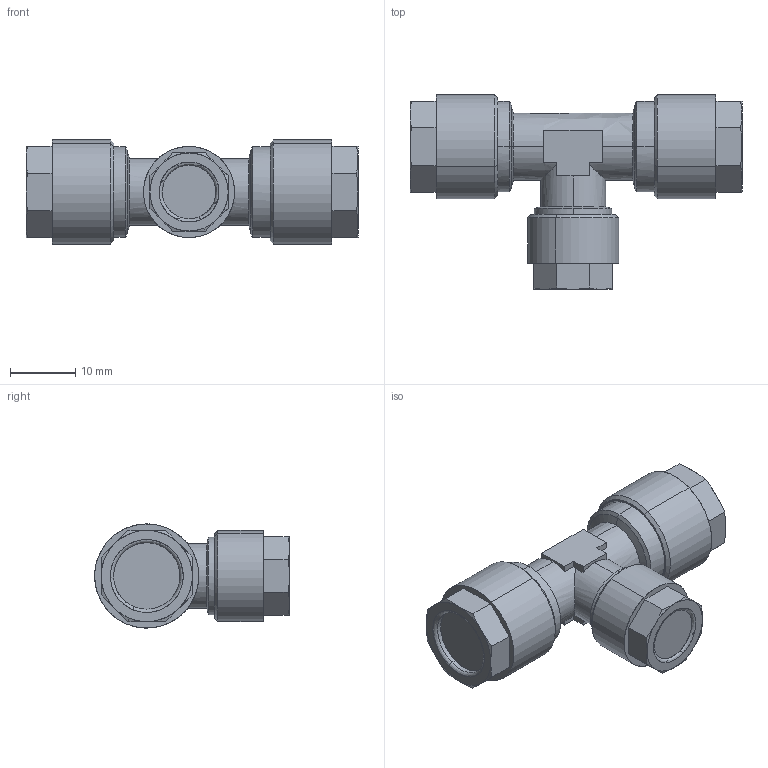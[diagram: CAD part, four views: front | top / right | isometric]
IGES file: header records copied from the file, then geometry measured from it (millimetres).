
Start section: SolidWorks IGES file using analytic representation for surfaces
Global section: file name: K:\Disegni Esecutivi\Serie 1000\Complessivi Serie 1000\1230\1230_iges\0123000007A.IGS; native system: SolidWorks 2008; preprocessor: SolidWorks 2008; author: cad05; date: 090210.174822; units: millimetre
Bounding box: 51 x 29.9 x 16 mm (x, y, z)
Surface area: 3736.3 mm2 (no closed solid volume)
Topology: 0 solids, 0 shells, 130 faces, 1331 edges, 1331 vertices
Faces by surface type: revolution 66, bspline 64
